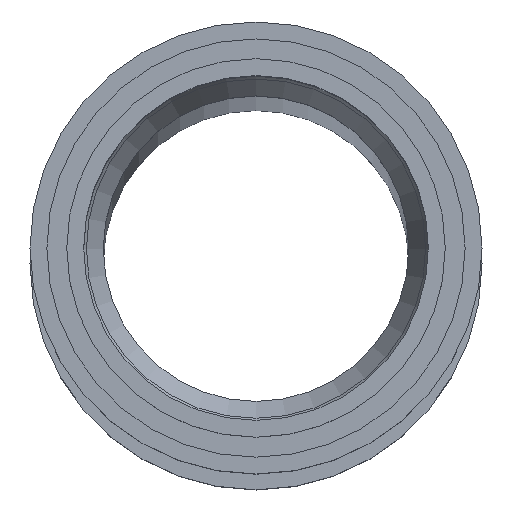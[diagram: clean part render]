
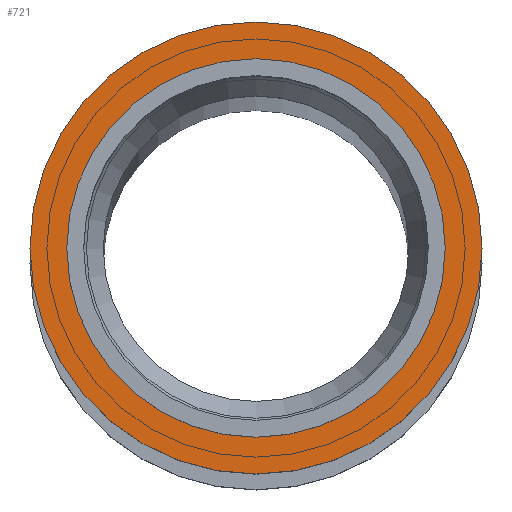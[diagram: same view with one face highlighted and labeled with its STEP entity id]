
A CAD part, top view. The second image highlights one B-rep face of the part: STEP entity #721.
In plain terms, the highlighted planar face has unit normal (0, 0, 1) as drawn and (1, 0, 0) by its records, which use the part's own axes.
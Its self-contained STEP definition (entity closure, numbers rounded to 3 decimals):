
#104=PLANE($,#801);
#131=FACE_BOUND($,#239,.T.);
#132=FACE_BOUND($,#240,.T.);
#239=EDGE_LOOP($,(#605));
#240=EDGE_LOOP($,(#606));
#288=CIRCLE($,#800,26.75);
#289=CIRCLE($,#802,22.4);
#358=VERTEX_POINT($,#1929);
#359=VERTEX_POINT($,#1932);
#444=EDGE_CURVE($,#358,#358,#288,.T.);
#445=EDGE_CURVE($,#359,#359,#289,.T.);
#605=ORIENTED_EDGE($,*,*,#445,.F.);
#606=ORIENTED_EDGE($,*,*,#444,.T.);
#721=ADVANCED_FACE($,(#131,#132),#104,.T.);
#800=AXIS2_PLACEMENT_3D($,#1930,#954,#955);
#801=AXIS2_PLACEMENT_3D($,#1931,#956,#957);
#802=AXIS2_PLACEMENT_3D($,#1933,#958,#959);
#954=DIRECTION('center_axis',(1.,0.,0.));
#955=DIRECTION('ref_axis',(0.,1.,0.));
#956=DIRECTION('center_axis',(1.,0.,0.));
#957=DIRECTION('ref_axis',(0.,0.,-1.));
#958=DIRECTION('center_axis',(1.,0.,0.));
#959=DIRECTION('ref_axis',(0.,1.,0.));
#1929=CARTESIAN_POINT('',(53.5,26.75,0.));
#1930=CARTESIAN_POINT('Origin',(53.5,0.,0.));
#1931=CARTESIAN_POINT('Origin',(53.5,24.575,0.));
#1932=CARTESIAN_POINT('',(53.5,22.4,0.));
#1933=CARTESIAN_POINT('Origin',(53.5,0.,0.));
